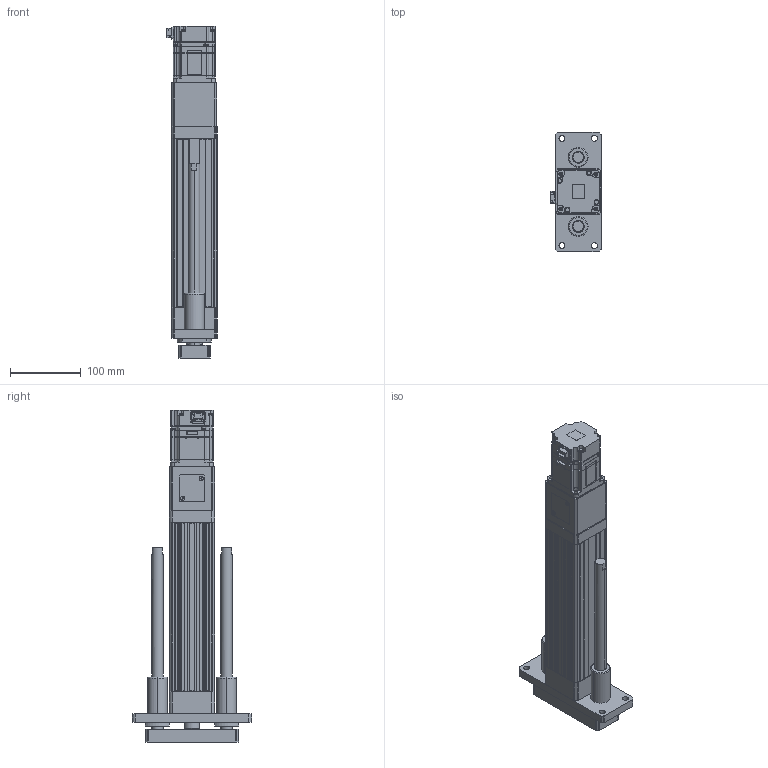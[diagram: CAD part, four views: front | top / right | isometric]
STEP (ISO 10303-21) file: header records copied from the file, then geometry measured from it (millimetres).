
FILE_DESCRIPTION (( 'STEP AP203' ), '1' );
FILE_NAME ('ANS065-GS150-05(10)-W20.STEP', '2019-02-28T08:33:26', ( 'user' ), ( '' ), 'SwSTEP 2.0', 'SolidWorks 2013', '' );
FILE_SCHEMA (( 'CONFIG_CONTROL_DESIGN' ));
Length unit declared in the file: millimetre
Products named in the file (4): ANS065-GS150-05(10)-W20; ANS065 GS150 VER2; ANS065 ROD ST150 G; sgmjv_02a_a21
Assembly tree (3 placements, depth 2):
  ANS065-GS150-05(10)-W20
    ANS065 GS150 VER2
    ANS065 ROD ST150 G
    sgmjv_02a_a21
Bounding box: 71.3 x 170 x 470.6 mm (x, y, z)
Volume: 1521654.6 mm3; surface area: 344740.2 mm2
Topology: 3 solids, 19 shells, 1500 faces, 3817 edges, 2439 vertices
Faces by surface type: plane 832, cylinder 482, cone 182, torus 4
Entity records: 45333 total; most frequent: CARTESIAN_POINT 7996, DIRECTION 7837, ORIENTED_EDGE 7570, EDGE_CURVE 3785, AXIS2_PLACEMENT_3D 2626, LINE 2585, VECTOR 2585, VERTEX_POINT 2439
